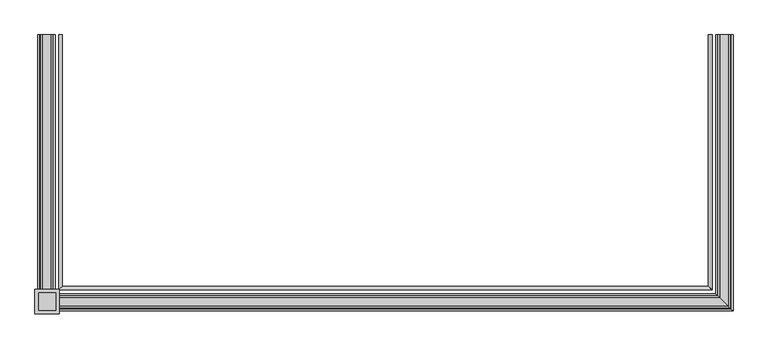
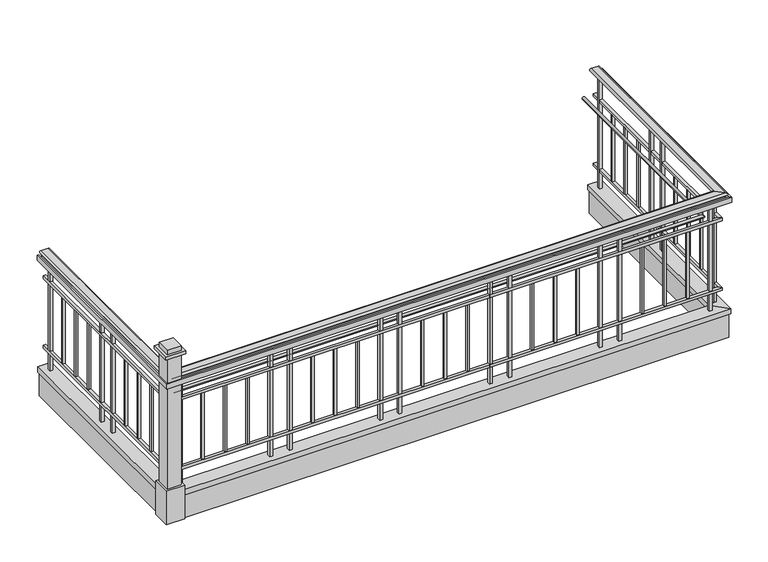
"""IFC4 building model written with IfcOpenShell, lengths in millimetres: railing geometry, Deco Type."""

from ifc_helpers import new_model, si_unit, frame, origin, place, context, project, spatial, polyline, circle_curve, ellipse_curve, outline, extrude, faceted_brep, source, transform, mapped, element, save
from ifc_brep_helpers import plane_surface, cylinder_surface, advanced_brep


def railing_9861355d(model_context):
    return source(origin(), model_context, "Body", "SolidModel", [
        advanced_brep(
        [(10061.4002076, -7864.1661799, 1098.55), (10124.7499602, -7864.1661799, 1098.55), (10124.7499602, -7864.1661799, 1076.261629), (10124.7499602, -7864.1661799, 1066.8), (10061.4002076, -7864.1661799, 1066.8), (10061.4002076, -7864.1661799, 1076.3248415), (10061.4002076, -9707.4039273, 1076.3248415), (10061.4002076, -9707.4039273, 1098.55), (10061.4002076, -9707.4039273, 1066.8), (10124.7499602, -9770.7536799, 1066.8), (10124.7499602, -9770.7536799, 1076.261629), (10124.7499602, -9770.7536799, 1098.55), (5376.3872128, -9707.4039273, 1076.3248415), (5376.3872128, -9707.4039273, 1098.55), (5376.3872128, -9707.4039273, 1066.8), (5313.0374602, -9770.7536799, 1066.8), (5313.0374602, -9770.7536799, 1076.261629), (5313.0374602, -9770.7536799, 1098.55), (5376.3872128, -7864.1661799, 1098.55), (5376.3872128, -7864.1661799, 1076.3248415), (5376.3872128, -7864.1661799, 1066.8), (5313.0374602, -7864.1661799, 1066.8), (5313.0374602, -7864.1661799, 1076.261629), (5313.0374602, -7864.1661799, 1098.55)],
        [
            (0, 1),
            (1, 2, circle_curve(frame((10124.7499602, -7864.1661799, 1087.4058145), z_axis=(0.0, 1.0, 0.0), x_axis=(1.0, 0.0, 0.0)), 11.1441855)),
            (2, 3),
            (3, 4),
            (4, 5),
            (5, 0, circle_curve(frame((10061.4002076, -7864.1661799, 1087.4374207), z_axis=(0.0, 1.0, 0.0), x_axis=(1.0, 0.0, 0.0)), 11.1125793)),
            (5, 6),
            (6, 7, ellipse_curve(frame((10061.4002076, -9707.4039273, 1087.4374207), z_axis=(0.7071067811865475, 0.7071067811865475, 0.0), x_axis=(-0.7071067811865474, 0.7071067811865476, 0.0)), 15.7155603, 11.1125793)),
            (7, 0),
            (4, 8),
            (8, 6),
            (3, 9),
            (9, 8),
            (2, 10),
            (10, 9),
            (1, 11),
            (11, 10, ellipse_curve(frame((10124.7499602, -9770.7536799, 1087.4058145), z_axis=(0.7071067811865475, 0.7071067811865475, 0.0), x_axis=(-0.7071067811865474, 0.7071067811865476, 0.0)), 15.7602583, 11.1441855)),
            (7, 11),
            (6, 12),
            (12, 13, ellipse_curve(frame((5376.3872128, -9707.4039273, 1087.4374207), z_axis=(0.7071067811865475, -0.7071067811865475, 0.0), x_axis=(0.7071067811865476, 0.7071067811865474, 0.0)), 15.7155603, 11.1125793)),
            (13, 7),
            (8, 14),
            (14, 12),
            (9, 15),
            (15, 14),
            (10, 16),
            (16, 15),
            (11, 17),
            (17, 16, ellipse_curve(frame((5313.0374602, -9770.7536799, 1087.4058145), z_axis=(0.7071067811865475, -0.7071067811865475, 0.0), x_axis=(0.7071067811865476, 0.7071067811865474, 0.0)), 15.7602583, 11.1441855)),
            (13, 17),
            (18, 19, circle_curve(frame((5376.3872128, -7864.1661799, 1087.4374207), z_axis=(0.0, 1.0, 0.0), x_axis=(-1.0, 0.0, 0.0)), 11.1125793)),
            (19, 20),
            (20, 21),
            (21, 22),
            (22, 23, circle_curve(frame((5313.0374602, -7864.1661799, 1087.4058145), z_axis=(0.0, 1.0, 0.0), x_axis=(-1.0, 0.0, 0.0)), 11.1441855)),
            (23, 18),
            (12, 19),
            (18, 13),
            (14, 20),
            (15, 21),
            (16, 22),
            (17, 23),
        ],
        [
            plane_surface(frame((10092.9999602, -7864.1661799, 1066.8), z_axis=(0.0, 1.0, 0.0), x_axis=(0.0, 0.0, -1.0))),
            cylinder_surface(frame((10061.4002076, -7864.1661799, 1087.4374207), z_axis=(0.0, 1.0, 0.0), x_axis=(1.0, 0.0, 0.0)), 11.1125793),
            plane_surface(frame((10061.4002076, -7864.1661799, 1066.8), z_axis=(-1.0, 0.0, 0.0), x_axis=(0.0, -1.0, 0.0))),
            plane_surface(frame((10124.7499602, -7864.1661799, 1066.8), z_axis=(0.0, 0.0, -1.0), x_axis=(0.0, -1.0, 0.0))),
            plane_surface(frame((10124.7499602, -7864.1661799, 1076.261629), z_axis=(1.0, 0.0, 0.0), x_axis=(0.0, -1.0, 0.0))),
            cylinder_surface(frame((10124.7499602, -7864.1661799, 1087.4058145), z_axis=(0.0, 1.0, 0.0), x_axis=(1.0, 0.0, 0.0)), 11.1441855),
            plane_surface(frame((10061.4002076, -7864.1661799, 1098.55), z_axis=(0.0, 0.0, 1.0), x_axis=(0.0, -1.0, 0.0))),
            cylinder_surface(frame((10092.9999602, -9707.4039273, 1087.4374207), z_axis=(1.0, 0.0, 0.0), x_axis=(0.0, -1.0, 0.0)), 11.1125793),
            plane_surface(frame((10061.4002076, -9707.4039273, 1066.8), z_axis=(0.0, 1.0, 0.0), x_axis=(-1.0, 0.0, 0.0))),
            plane_surface(frame((10124.7499602, -9770.7536799, 1066.8), z_axis=(0.0, 0.0, -1.0), x_axis=(-1.0, 0.0, 0.0))),
            plane_surface(frame((10124.7499602, -9770.7536799, 1076.261629), z_axis=(0.0, -1.0, 0.0), x_axis=(-1.0, 0.0, 0.0))),
            cylinder_surface(frame((10092.9999602, -9770.7536799, 1087.4058145), z_axis=(1.0, 0.0, 0.0), x_axis=(0.0, -1.0, 0.0)), 11.1441855),
            plane_surface(frame((10061.4002076, -9707.4039273, 1098.55), z_axis=(0.0, 0.0, 1.0), x_axis=(-1.0, 0.0, 0.0))),
            plane_surface(frame((5344.7874602, -7864.1661799, 1066.8), z_axis=(0.0, 1.0, 0.0), x_axis=(0.0, 0.0, 1.0))),
            cylinder_surface(frame((5376.3872128, -9739.0036799, 1087.4374207), z_axis=(0.0, -1.0, 0.0), x_axis=(-1.0, 0.0, 0.0)), 11.1125793),
            plane_surface(frame((5376.3872128, -9707.4039273, 1066.8), z_axis=(1.0, 0.0, 0.0), x_axis=(0.0, 1.0, 0.0))),
            plane_surface(frame((5313.0374602, -9770.7536799, 1066.8), z_axis=(0.0, 0.0, -1.0), x_axis=(0.0, 1.0, 0.0))),
            plane_surface(frame((5313.0374602, -9770.7536799, 1076.261629), z_axis=(-1.0, 0.0, 0.0), x_axis=(0.0, 1.0, 0.0))),
            cylinder_surface(frame((5313.0374602, -9739.0036799, 1087.4058145), z_axis=(0.0, -1.0, 0.0), x_axis=(-1.0, 0.0, 0.0)), 11.1441855),
            plane_surface(frame((5376.3872128, -9707.4039273, 1098.55), z_axis=(0.0, 0.0, 1.0), x_axis=(0.0, 1.0, 0.0))),
        ],
        [
            (0, [[1, 2, 3, 4, 5, 6]]),
            (1, [[-6, 7, 8, 9]]),
            (2, [[-5, 10, 11, -7]]),
            (3, [[-4, 12, 13, -10]]),
            (4, [[-3, 14, 15, -12]]),
            (5, [[-2, 16, 17, -14]]),
            (6, [[-1, -9, 18, -16]]),
            (7, [[-8, 19, 20, 21]]),
            (8, [[-11, 22, 23, -19]]),
            (9, [[-13, 24, 25, -22]]),
            (10, [[-15, 26, 27, -24]]),
            (11, [[-17, 28, 29, -26]]),
            (12, [[-18, -21, 30, -28]]),
            (13, [[31, 32, 33, 34, 35, 36]]),
            (14, [[-20, 37, -31, 38]]),
            (15, [[-23, 39, -32, -37]]),
            (16, [[-25, 40, -33, -39]]),
            (17, [[-27, 41, -34, -40]]),
            (18, [[-29, 42, -35, -41]]),
            (19, [[-30, -38, -36, -42]]),
        ],
    ),
        faceted_brep([(10118.4750839, -7864.1661799, 1066.8), (10118.4750839, -7864.1661799, 1022.35), (10105.7750839, -7864.1661799, 1022.35), (10105.7750839, -7864.1661799, 1066.8), (10105.7750839, -9751.7788036, 1066.8), (10118.4750839, -9764.4788036, 1066.8), (10105.7750839, -9751.7788036, 1022.35), (10118.4750839, -9764.4788036, 1022.35), (5332.0123365, -9751.7788036, 1066.8), (5319.3123365, -9764.4788036, 1066.8), (5332.0123365, -9751.7788036, 1022.35), (5319.3123365, -9764.4788036, 1022.35), (5319.3123365, -7864.1661799, 1066.8), (5332.0123365, -7864.1661799, 1066.8), (5332.0123365, -7864.1661799, 1022.35), (5319.3123365, -7864.1661799, 1022.35)], [[[0, 1, 2, 3]], [[0, 3, 4, 5]], [[3, 2, 6, 4]], [[2, 1, 7, 6]], [[1, 0, 5, 7]], [[5, 4, 8, 9]], [[4, 6, 10, 8]], [[6, 7, 11, 10]], [[7, 5, 9, 11]], [[12, 13, 14, 15]], [[9, 8, 13, 12]], [[8, 10, 14, 13]], [[10, 11, 15, 14]], [[11, 9, 12, 15]]]),
        faceted_brep([(10156.5750839, -7864.1661799, 1066.8), (10156.5750839, -7864.1661799, 1022.35), (10143.8750839, -7864.1661799, 1022.35), (10143.8750839, -7864.1661799, 1066.8), (10143.8750839, -9789.8788036, 1066.8), (10156.5750839, -9802.5788036, 1066.8), (10143.8750839, -9789.8788036, 1022.35), (10156.5750839, -9802.5788036, 1022.35), (5293.9123365, -9789.8788036, 1066.8), (5281.2123365, -9802.5788036, 1066.8), (5293.9123365, -9789.8788036, 1022.35), (5281.2123365, -9802.5788036, 1022.35), (5281.2123365, -7864.1661799, 1066.8), (5293.9123365, -7864.1661799, 1066.8), (5293.9123365, -7864.1661799, 1022.35), (5281.2123365, -7864.1661799, 1022.35)], [[[0, 1, 2, 3]], [[0, 3, 4, 5]], [[3, 2, 6, 4]], [[2, 1, 7, 6]], [[1, 0, 5, 7]], [[5, 4, 8, 9]], [[4, 6, 10, 8]], [[6, 7, 11, 10]], [[7, 5, 9, 11]], [[12, 13, 14, 15]], [[9, 8, 13, 12]], [[8, 10, 14, 13]], [[10, 11, 15, 14]], [[11, 9, 12, 15]]]),
        faceted_brep([(10105.6999602, -7864.1661799, 863.6), (10105.6999602, -7864.1661799, 838.2), (10080.2999602, -7864.1661799, 838.2), (10080.2999602, -7864.1661799, 863.6), (10080.2999602, -9726.3036799, 863.6), (10105.6999602, -9751.7036799, 863.6), (10080.2999602, -9726.3036799, 838.2), (10105.6999602, -9751.7036799, 838.2), (5357.4874602, -9726.3036799, 863.6), (5332.0874602, -9751.7036799, 863.6), (5357.4874602, -9726.3036799, 838.2), (5332.0874602, -9751.7036799, 838.2), (5332.0874602, -7864.1661799, 863.6), (5357.4874602, -7864.1661799, 863.6), (5357.4874602, -7864.1661799, 838.2), (5332.0874602, -7864.1661799, 838.2)], [[[0, 1, 2, 3]], [[0, 3, 4, 5]], [[3, 2, 6, 4]], [[2, 1, 7, 6]], [[1, 0, 5, 7]], [[5, 4, 8, 9]], [[4, 6, 10, 8]], [[6, 7, 11, 10]], [[7, 5, 9, 11]], [[12, 13, 14, 15]], [[9, 8, 13, 12]], [[8, 10, 14, 13]], [[10, 11, 15, 14]], [[11, 9, 12, 15]]]),
        advanced_brep(
        [(9983.4624602, -7864.1661799, 850.9), (10008.8624602, -7864.1661799, 850.9), (10008.8624602, -9654.8661799, 850.9), (9983.4624602, -9629.4661799, 850.9), (5428.9249602, -9654.8661799, 850.9), (5454.3249602, -9629.4661799, 850.9), (5454.3249602, -7864.1661799, 850.9), (5428.9249602, -7864.1661799, 850.9)],
        [
            (0, 1, circle_curve(frame((9996.1624602, -7864.1661799, 850.9), z_axis=(0.0, 1.0, 0.0), x_axis=(1.0, 0.0, 0.0)), 12.7)),
            (1, 0, circle_curve(frame((9996.1624602, -7864.1661799, 850.9), z_axis=(0.0, 1.0, 0.0), x_axis=(1.0, 0.0, 0.0)), 12.7)),
            (1, 2),
            (2, 3, ellipse_curve(frame((9996.1624602, -9642.1661799, 850.9), z_axis=(0.7071067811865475, 0.7071067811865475, 0.0), x_axis=(-0.7071067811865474, 0.7071067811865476, 0.0)), 17.9605122, 12.7)),
            (3, 0),
            (3, 2, ellipse_curve(frame((9996.1624602, -9642.1661799, 850.9), z_axis=(0.7071067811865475, 0.7071067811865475, 0.0), x_axis=(-0.7071067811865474, 0.7071067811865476, 0.0)), 17.9605122, 12.7)),
            (2, 4),
            (4, 5, ellipse_curve(frame((5441.6249602, -9642.1661799, 850.9), z_axis=(0.7071067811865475, -0.7071067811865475, 0.0), x_axis=(0.7071067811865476, 0.7071067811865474, 0.0)), 17.9605122, 12.7)),
            (5, 3),
            (5, 4, ellipse_curve(frame((5441.6249602, -9642.1661799, 850.9), z_axis=(0.7071067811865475, -0.7071067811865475, 0.0), x_axis=(0.7071067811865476, 0.7071067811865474, 0.0)), 17.9605122, 12.7)),
            (6, 7, circle_curve(frame((5441.6249602, -7864.1661799, 850.9), z_axis=(0.0, 1.0, 0.0), x_axis=(-1.0, 0.0, 0.0)), 12.7)),
            (7, 6, circle_curve(frame((5441.6249602, -7864.1661799, 850.9), z_axis=(0.0, 1.0, 0.0), x_axis=(-1.0, 0.0, 0.0)), 12.7)),
            (4, 7),
            (6, 5),
        ],
        [
            plane_surface(frame((9996.1624602, -7864.1661799, 850.9), z_axis=(0.0, 1.0, 0.0), x_axis=(0.0, 0.0, -1.0))),
            cylinder_surface(frame((9996.1624602, -7864.1661799, 850.9), z_axis=(0.0, 1.0, 0.0), x_axis=(1.0, 0.0, 0.0)), 12.7),
            cylinder_surface(frame((9996.1624602, -9642.1661799, 850.9), z_axis=(1.0, 0.0, 0.0), x_axis=(0.0, -1.0, 0.0)), 12.7),
            plane_surface(frame((5441.6249602, -7864.1661799, 850.9), z_axis=(0.0, 1.0, 0.0), x_axis=(0.0, 0.0, 1.0))),
            cylinder_surface(frame((5441.6249602, -9642.1661799, 850.9), z_axis=(0.0, -1.0, 0.0), x_axis=(-1.0, 0.0, 0.0)), 12.7),
        ],
        [
            (0, [[1, 2]]),
            (1, [[-2, 3, 4, 5]]),
            (1, [[-1, -5, 6, -3]]),
            (2, [[-4, 7, 8, 9]]),
            (2, [[-6, -9, 10, -7]]),
            (3, [[11, 12]]),
            (4, [[-8, 13, -11, 14]]),
            (4, [[-10, -14, -12, -13]]),
        ],
    ),
        faceted_brep([(10105.6999602, -7864.1661799, 228.6), (10105.6999602, -7864.1661799, 203.2), (10080.2999602, -7864.1661799, 203.2), (10080.2999602, -7864.1661799, 228.6), (10080.2999602, -9726.3036799, 228.6), (10105.6999602, -9751.7036799, 228.6), (10080.2999602, -9726.3036799, 203.2), (10105.6999602, -9751.7036799, 203.2), (5357.4874602, -9726.3036799, 228.6), (5332.0874602, -9751.7036799, 228.6), (5357.4874602, -9726.3036799, 203.2), (5332.0874602, -9751.7036799, 203.2), (5332.0874602, -7864.1661799, 228.6), (5357.4874602, -7864.1661799, 228.6), (5357.4874602, -7864.1661799, 203.2), (5332.0874602, -7864.1661799, 203.2)], [[[0, 1, 2, 3]], [[0, 3, 4, 5]], [[3, 2, 6, 4]], [[2, 1, 7, 6]], [[1, 0, 5, 7]], [[5, 4, 8, 9]], [[4, 6, 10, 8]], [[6, 7, 11, 10]], [[7, 5, 9, 11]], [[12, 13, 14, 15]], [[9, 8, 13, 12]], [[8, 10, 14, 13]], [[10, 11, 15, 14]], [[11, 9, 12, 15]]]),
        faceted_brep([(10034.3375839, -7864.1661799, 49.0362864), (10151.8125839, -7864.1661799, 49.0362864), (10151.8125839, -7864.1661799, 0.0), (10139.1125839, -7864.1661799, 0.0), (10139.1125839, -7864.1661799, 36.3362864), (10047.0375839, -7864.1661799, 36.3362864), (10047.0375839, -7864.1661799, 0.0), (10034.3375839, -7864.1661799, 0.0), (10034.3375839, -9680.3413036, 0.0), (10034.3375839, -9680.3413036, 49.0362864), (10047.0375839, -9693.0413036, 0.0), (10047.0375839, -9693.0413036, 36.3362864), (10139.1125839, -9785.1163036, 36.3362864), (10139.1125839, -9785.1163036, 0.0), (10151.8125839, -9797.8163036, 0.0), (10151.8125839, -9797.8163036, 49.0362864), (5403.4498365, -9680.3413036, 0.0), (5403.4498365, -9680.3413036, 49.0362864), (5390.7498365, -9693.0413036, 0.0), (5390.7498365, -9693.0413036, 36.3362864), (5298.6748365, -9785.1163036, 36.3362864), (5298.6748365, -9785.1163036, 0.0), (5285.9748365, -9797.8163036, 0.0), (5285.9748365, -9797.8163036, 49.0362864), (5403.4498365, -7864.1661799, 49.0362864), (5403.4498365, -7864.1661799, 0.0), (5390.7498365, -7864.1661799, 0.0), (5390.7498365, -7864.1661799, 36.3362864), (5298.6748365, -7864.1661799, 36.3362864), (5298.6748365, -7864.1661799, 0.0), (5285.9748365, -7864.1661799, 0.0), (5285.9748365, -7864.1661799, 49.0362864)], [[[0, 1, 2, 3, 4, 5, 6, 7]], [[0, 7, 8, 9]], [[7, 6, 10, 8]], [[6, 5, 11, 10]], [[5, 4, 12, 11]], [[4, 3, 13, 12]], [[3, 2, 14, 13]], [[2, 1, 15, 14]], [[1, 0, 9, 15]], [[9, 8, 16, 17]], [[8, 10, 18, 16]], [[10, 11, 19, 18]], [[11, 12, 20, 19]], [[12, 13, 21, 20]], [[13, 14, 22, 21]], [[14, 15, 23, 22]], [[15, 9, 17, 23]], [[24, 25, 26, 27, 28, 29, 30, 31]], [[17, 16, 25, 24]], [[16, 18, 26, 25]], [[18, 19, 27, 26]], [[19, 20, 28, 27]], [[20, 21, 29, 28]], [[21, 22, 30, 29]], [[22, 23, 31, 30]], [[23, 17, 24, 31]]]),
        faceted_brep([(10047.0375839, -7864.1661799, 36.3362864), (10139.1125839, -7864.1661799, 36.3362864), (10139.1125839, -7864.1661799, -217.6637136), (10047.0375839, -7864.1661799, -217.6637136), (10047.0375839, -9693.0413036, -217.6637136), (10047.0375839, -9693.0413036, 36.3362864), (10139.1125839, -9785.1163036, -217.6637136), (10139.1125839, -9785.1163036, 36.3362864), (5390.7498365, -9693.0413036, -217.6637136), (5390.7498365, -9693.0413036, 36.3362864), (5298.6748365, -9785.1163036, -217.6637136), (5298.6748365, -9785.1163036, 36.3362864), (5390.7498365, -7864.1661799, 36.3362864), (5390.7498365, -7864.1661799, -217.6637136), (5298.6748365, -7864.1661799, -217.6637136), (5298.6748365, -7864.1661799, 36.3362864)], [[[0, 1, 2, 3]], [[0, 3, 4, 5]], [[3, 2, 6, 4]], [[2, 1, 7, 6]], [[1, 0, 5, 7]], [[5, 4, 8, 9]], [[4, 6, 10, 8]], [[6, 7, 11, 10]], [[7, 5, 9, 11]], [[12, 13, 14, 15]], [[9, 8, 13, 12]], [[8, 10, 14, 13]], [[10, 11, 15, 14]], [[11, 9, 12, 15]]]),
        extrude(outline(polyline([(5334.8655852, -7959.4570347), (5334.8655852, -7934.0570347), (5360.2655852, -7934.0570347), (5360.2655852, -7959.4570347), (5334.8655852, -7959.4570347)])), frame((0.0, 0.0, 49.0362864), z_axis=(0.0, 0.0, 1.0), x_axis=(1.0, 0.0, 0.0)), (0.0, 0.0, 1.0), 1017.7637136),
        extrude(outline(polyline([(5338.0405852, -8148.9940292), (5338.0405852, -8129.9440292), (5357.0905852, -8129.9440292), (5357.0905852, -8148.9940292), (5338.0405852, -8148.9940292)])), frame((0.0, 0.0, 228.6), z_axis=(0.0, 0.0, 1.0), x_axis=(1.0, 0.0, 0.0)), (0.0, 0.0, 1.0), 609.6),
        extrude(outline(polyline([(5338.0405852, -8341.7060237), (5338.0405852, -8322.6560237), (5357.0905852, -8322.6560237), (5357.0905852, -8341.7060237), (5338.0405852, -8341.7060237)])), frame((0.0, 0.0, 228.6), z_axis=(0.0, 0.0, 1.0), x_axis=(1.0, 0.0, 0.0)), (0.0, 0.0, 1.0), 609.6),
        extrude(outline(polyline([(5338.0405852, -8534.4180182), (5338.0405852, -8515.3680182), (5357.0905852, -8515.3680182), (5357.0905852, -8534.4180182), (5338.0405852, -8534.4180182)])), frame((0.0, 0.0, 228.6), z_axis=(0.0, 0.0, 1.0), x_axis=(1.0, 0.0, 0.0)), (0.0, 0.0, 1.0), 609.6),
        extrude(outline(polyline([(5334.8655852, -8730.3050126), (5334.8655852, -8704.9050126), (5360.2655852, -8704.9050126), (5360.2655852, -8730.3050126), (5334.8655852, -8730.3050126)])), frame((0.0, 0.0, 49.0362864), z_axis=(0.0, 0.0, 1.0), x_axis=(1.0, 0.0, 0.0)), (0.0, 0.0, 1.0), 1017.7637136),
        extrude(outline(polyline([(5334.8655852, -8895.4867222), (5334.8655852, -8870.0867222), (5360.2655852, -8870.0867222), (5360.2655852, -8895.4867222), (5334.8655852, -8895.4867222)])), frame((0.0, 0.0, 49.0362864), z_axis=(0.0, 0.0, 1.0), x_axis=(1.0, 0.0, 0.0)), (0.0, 0.0, 1.0), 1017.7637136),
        extrude(outline(polyline([(5338.0405852, -9085.0237167), (5338.0405852, -9065.9737167), (5357.0905852, -9065.9737167), (5357.0905852, -9085.0237167), (5338.0405852, -9085.0237167)])), frame((0.0, 0.0, 228.6), z_axis=(0.0, 0.0, 1.0), x_axis=(1.0, 0.0, 0.0)), (0.0, 0.0, 1.0), 609.6),
        extrude(outline(polyline([(5338.0405852, -9277.7357112), (5338.0405852, -9258.6857112), (5357.0905852, -9258.6857112), (5357.0905852, -9277.7357112), (5338.0405852, -9277.7357112)])), frame((0.0, 0.0, 228.6), z_axis=(0.0, 0.0, 1.0), x_axis=(1.0, 0.0, 0.0)), (0.0, 0.0, 1.0), 609.6),
        extrude(outline(polyline([(5338.0405852, -9470.4477057), (5338.0405852, -9451.3977057), (5357.0905852, -9451.3977057), (5357.0905852, -9470.4477057), (5338.0405852, -9470.4477057)])), frame((0.0, 0.0, 228.6), z_axis=(0.0, 0.0, 1.0), x_axis=(1.0, 0.0, 0.0)), (0.0, 0.0, 1.0), 609.6),
        extrude(outline(polyline([(5334.8655852, -9666.3347001), (5334.8655852, -9640.9347001), (5360.2655852, -9640.9347001), (5360.2655852, -9666.3347001), (5334.8655852, -9666.3347001)])), frame((0.0, 0.0, 49.0362864), z_axis=(0.0, 0.0, 1.0), x_axis=(1.0, 0.0, 0.0)), (0.0, 0.0, 1.0), 1017.7637136),
        extrude(outline(polyline([(5443.959519, -9748.9255549), (5418.559519, -9748.9255549), (5418.559519, -9723.5255549), (5443.959519, -9723.5255549), (5443.959519, -9748.9255549)])), frame((0.0, 0.0, 49.0362864), z_axis=(0.0, 0.0, 1.0), x_axis=(1.0, 0.0, 0.0)), (0.0, 0.0, 1.0), 1017.7637136),
        extrude(outline(polyline([(5636.0703646, -9745.7505549), (5617.0203646, -9745.7505549), (5617.0203646, -9726.7005549), (5636.0703646, -9726.7005549), (5636.0703646, -9745.7505549)])), frame((0.0, 0.0, 228.6), z_axis=(0.0, 0.0, 1.0), x_axis=(1.0, 0.0, 0.0)), (0.0, 0.0, 1.0), 609.6),
        extrude(outline(polyline([(5831.3562102, -9745.7505549), (5812.3062102, -9745.7505549), (5812.3062102, -9726.7005549), (5831.3562102, -9726.7005549), (5831.3562102, -9745.7505549)])), frame((0.0, 0.0, 228.6), z_axis=(0.0, 0.0, 1.0), x_axis=(1.0, 0.0, 0.0)), (0.0, 0.0, 1.0), 609.6),
        extrude(outline(polyline([(6026.6420558, -9745.7505549), (6007.5920558, -9745.7505549), (6007.5920558, -9726.7005549), (6026.6420558, -9726.7005549), (6026.6420558, -9745.7505549)])), frame((0.0, 0.0, 228.6), z_axis=(0.0, 0.0, 1.0), x_axis=(1.0, 0.0, 0.0)), (0.0, 0.0, 1.0), 609.6),
        extrude(outline(polyline([(6225.1029014, -9748.9255549), (6199.7029014, -9748.9255549), (6199.7029014, -9723.5255549), (6225.1029014, -9723.5255549), (6225.1029014, -9748.9255549)])), frame((0.0, 0.0, 49.0362864), z_axis=(0.0, 0.0, 1.0), x_axis=(1.0, 0.0, 0.0)), (0.0, 0.0, 1.0), 1017.7637136),
        extrude(outline(polyline([(6392.490769, -9748.9255549), (6367.090769, -9748.9255549), (6367.090769, -9723.5255549), (6392.490769, -9723.5255549), (6392.490769, -9748.9255549)])), frame((0.0, 0.0, 49.0362864), z_axis=(0.0, 0.0, 1.0), x_axis=(1.0, 0.0, 0.0)), (0.0, 0.0, 1.0), 1017.7637136),
        extrude(outline(polyline([(6584.6016146, -9745.7505549), (6565.5516146, -9745.7505549), (6565.5516146, -9726.7005549), (6584.6016146, -9726.7005549), (6584.6016146, -9745.7505549)])), frame((0.0, 0.0, 228.6), z_axis=(0.0, 0.0, 1.0), x_axis=(1.0, 0.0, 0.0)), (0.0, 0.0, 1.0), 609.6),
        extrude(outline(polyline([(6779.8874602, -9745.7505549), (6760.8374602, -9745.7505549), (6760.8374602, -9726.7005549), (6779.8874602, -9726.7005549), (6779.8874602, -9745.7505549)])), frame((0.0, 0.0, 228.6), z_axis=(0.0, 0.0, 1.0), x_axis=(1.0, 0.0, 0.0)), (0.0, 0.0, 1.0), 609.6),
        extrude(outline(polyline([(6975.1733058, -9745.7505549), (6956.1233058, -9745.7505549), (6956.1233058, -9726.7005549), (6975.1733058, -9726.7005549), (6975.1733058, -9745.7505549)])), frame((0.0, 0.0, 228.6), z_axis=(0.0, 0.0, 1.0), x_axis=(1.0, 0.0, 0.0)), (0.0, 0.0, 1.0), 609.6),
        extrude(outline(polyline([(7173.6341514, -9748.9255549), (7148.2341514, -9748.9255549), (7148.2341514, -9723.5255549), (7173.6341514, -9723.5255549), (7173.6341514, -9748.9255549)])), frame((0.0, 0.0, 49.0362864), z_axis=(0.0, 0.0, 1.0), x_axis=(1.0, 0.0, 0.0)), (0.0, 0.0, 1.0), 1017.7637136),
        extrude(outline(polyline([(7341.022019, -9748.9255549), (7315.622019, -9748.9255549), (7315.622019, -9723.5255549), (7341.022019, -9723.5255549), (7341.022019, -9748.9255549)])), frame((0.0, 0.0, 49.0362864), z_axis=(0.0, 0.0, 1.0), x_axis=(1.0, 0.0, 0.0)), (0.0, 0.0, 1.0), 1017.7637136),
        extrude(outline(polyline([(7533.1328646, -9745.7505549), (7514.0828646, -9745.7505549), (7514.0828646, -9726.7005549), (7533.1328646, -9726.7005549), (7533.1328646, -9745.7505549)])), frame((0.0, 0.0, 228.6), z_axis=(0.0, 0.0, 1.0), x_axis=(1.0, 0.0, 0.0)), (0.0, 0.0, 1.0), 609.6),
        extrude(outline(polyline([(7728.4187102, -9745.7505549), (7709.3687102, -9745.7505549), (7709.3687102, -9726.7005549), (7728.4187102, -9726.7005549), (7728.4187102, -9745.7505549)])), frame((0.0, 0.0, 228.6), z_axis=(0.0, 0.0, 1.0), x_axis=(1.0, 0.0, 0.0)), (0.0, 0.0, 1.0), 609.6),
        extrude(outline(polyline([(7923.7045558, -9745.7505549), (7904.6545558, -9745.7505549), (7904.6545558, -9726.7005549), (7923.7045558, -9726.7005549), (7923.7045558, -9745.7505549)])), frame((0.0, 0.0, 228.6), z_axis=(0.0, 0.0, 1.0), x_axis=(1.0, 0.0, 0.0)), (0.0, 0.0, 1.0), 609.6),
        extrude(outline(polyline([(8122.1654014, -9748.9255549), (8096.7654014, -9748.9255549), (8096.7654014, -9723.5255549), (8122.1654014, -9723.5255549), (8122.1654014, -9748.9255549)])), frame((0.0, 0.0, 49.0362864), z_axis=(0.0, 0.0, 1.0), x_axis=(1.0, 0.0, 0.0)), (0.0, 0.0, 1.0), 1017.7637136),
        extrude(outline(polyline([(8289.553269, -9748.9255549), (8264.153269, -9748.9255549), (8264.153269, -9723.5255549), (8289.553269, -9723.5255549), (8289.553269, -9748.9255549)])), frame((0.0, 0.0, 49.0362864), z_axis=(0.0, 0.0, 1.0), x_axis=(1.0, 0.0, 0.0)), (0.0, 0.0, 1.0), 1017.7637136),
        extrude(outline(polyline([(8481.6641146, -9745.7505549), (8462.6141146, -9745.7505549), (8462.6141146, -9726.7005549), (8481.6641146, -9726.7005549), (8481.6641146, -9745.7505549)])), frame((0.0, 0.0, 228.6), z_axis=(0.0, 0.0, 1.0), x_axis=(1.0, 0.0, 0.0)), (0.0, 0.0, 1.0), 609.6),
        extrude(outline(polyline([(8676.9499602, -9745.7505549), (8657.8999602, -9745.7505549), (8657.8999602, -9726.7005549), (8676.9499602, -9726.7005549), (8676.9499602, -9745.7505549)])), frame((0.0, 0.0, 228.6), z_axis=(0.0, 0.0, 1.0), x_axis=(1.0, 0.0, 0.0)), (0.0, 0.0, 1.0), 609.6),
        extrude(outline(polyline([(8872.2358058, -9745.7505549), (8853.1858058, -9745.7505549), (8853.1858058, -9726.7005549), (8872.2358058, -9726.7005549), (8872.2358058, -9745.7505549)])), frame((0.0, 0.0, 228.6), z_axis=(0.0, 0.0, 1.0), x_axis=(1.0, 0.0, 0.0)), (0.0, 0.0, 1.0), 609.6),
        extrude(outline(polyline([(9070.6966514, -9748.9255549), (9045.2966514, -9748.9255549), (9045.2966514, -9723.5255549), (9070.6966514, -9723.5255549), (9070.6966514, -9748.9255549)])), frame((0.0, 0.0, 49.0362864), z_axis=(0.0, 0.0, 1.0), x_axis=(1.0, 0.0, 0.0)), (0.0, 0.0, 1.0), 1017.7637136),
        extrude(outline(polyline([(9238.084519, -9748.9255549), (9212.684519, -9748.9255549), (9212.684519, -9723.5255549), (9238.084519, -9723.5255549), (9238.084519, -9748.9255549)])), frame((0.0, 0.0, 49.0362864), z_axis=(0.0, 0.0, 1.0), x_axis=(1.0, 0.0, 0.0)), (0.0, 0.0, 1.0), 1017.7637136),
        extrude(outline(polyline([(9430.1953646, -9745.7505549), (9411.1453646, -9745.7505549), (9411.1453646, -9726.7005549), (9430.1953646, -9726.7005549), (9430.1953646, -9745.7505549)])), frame((0.0, 0.0, 228.6), z_axis=(0.0, 0.0, 1.0), x_axis=(1.0, 0.0, 0.0)), (0.0, 0.0, 1.0), 609.6),
        extrude(outline(polyline([(9625.4812102, -9745.7505549), (9606.4312102, -9745.7505549), (9606.4312102, -9726.7005549), (9625.4812102, -9726.7005549), (9625.4812102, -9745.7505549)])), frame((0.0, 0.0, 228.6), z_axis=(0.0, 0.0, 1.0), x_axis=(1.0, 0.0, 0.0)), (0.0, 0.0, 1.0), 609.6),
        extrude(outline(polyline([(9820.7670558, -9745.7505549), (9801.7170558, -9745.7505549), (9801.7170558, -9726.7005549), (9820.7670558, -9726.7005549), (9820.7670558, -9745.7505549)])), frame((0.0, 0.0, 228.6), z_axis=(0.0, 0.0, 1.0), x_axis=(1.0, 0.0, 0.0)), (0.0, 0.0, 1.0), 609.6),
        extrude(outline(polyline([(10019.2279014, -9748.9255549), (9993.8279014, -9748.9255549), (9993.8279014, -9723.5255549), (10019.2279014, -9723.5255549), (10019.2279014, -9748.9255549)])), frame((0.0, 0.0, 49.0362864), z_axis=(0.0, 0.0, 1.0), x_axis=(1.0, 0.0, 0.0)), (0.0, 0.0, 1.0), 1017.7637136),
        extrude(outline(polyline([(10102.9218352, -9640.9347001), (10102.9218352, -9666.3347001), (10077.5218352, -9666.3347001), (10077.5218352, -9640.9347001), (10102.9218352, -9640.9347001)])), frame((0.0, 0.0, 49.0362864), z_axis=(0.0, 0.0, 1.0), x_axis=(1.0, 0.0, 0.0)), (0.0, 0.0, 1.0), 1017.7637136),
        extrude(outline(polyline([(10099.7468352, -9451.3977057), (10099.7468352, -9470.4477057), (10080.6968352, -9470.4477057), (10080.6968352, -9451.3977057), (10099.7468352, -9451.3977057)])), frame((0.0, 0.0, 228.6), z_axis=(0.0, 0.0, 1.0), x_axis=(1.0, 0.0, 0.0)), (0.0, 0.0, 1.0), 609.6),
        extrude(outline(polyline([(10099.7468352, -9258.6857112), (10099.7468352, -9277.7357112), (10080.6968352, -9277.7357112), (10080.6968352, -9258.6857112), (10099.7468352, -9258.6857112)])), frame((0.0, 0.0, 228.6), z_axis=(0.0, 0.0, 1.0), x_axis=(1.0, 0.0, 0.0)), (0.0, 0.0, 1.0), 609.6),
        extrude(outline(polyline([(10099.7468352, -9065.9737167), (10099.7468352, -9085.0237167), (10080.6968352, -9085.0237167), (10080.6968352, -9065.9737167), (10099.7468352, -9065.9737167)])), frame((0.0, 0.0, 228.6), z_axis=(0.0, 0.0, 1.0), x_axis=(1.0, 0.0, 0.0)), (0.0, 0.0, 1.0), 609.6),
        extrude(outline(polyline([(10102.9218352, -8870.0867222), (10102.9218352, -8895.4867222), (10077.5218352, -8895.4867222), (10077.5218352, -8870.0867222), (10102.9218352, -8870.0867222)])), frame((0.0, 0.0, 49.0362864), z_axis=(0.0, 0.0, 1.0), x_axis=(1.0, 0.0, 0.0)), (0.0, 0.0, 1.0), 1017.7637136),
        extrude(outline(polyline([(10102.9218352, -8704.9050126), (10102.9218352, -8730.3050126), (10077.5218352, -8730.3050126), (10077.5218352, -8704.9050126), (10102.9218352, -8704.9050126)])), frame((0.0, 0.0, 49.0362864), z_axis=(0.0, 0.0, 1.0), x_axis=(1.0, 0.0, 0.0)), (0.0, 0.0, 1.0), 1017.7637136),
        extrude(outline(polyline([(10099.7468352, -8515.3680182), (10099.7468352, -8534.4180182), (10080.6968352, -8534.4180182), (10080.6968352, -8515.3680182), (10099.7468352, -8515.3680182)])), frame((0.0, 0.0, 228.6), z_axis=(0.0, 0.0, 1.0), x_axis=(1.0, 0.0, 0.0)), (0.0, 0.0, 1.0), 609.6),
        extrude(outline(polyline([(10099.7468352, -8322.6560237), (10099.7468352, -8341.7060237), (10080.6968352, -8341.7060237), (10080.6968352, -8322.6560237), (10099.7468352, -8322.6560237)])), frame((0.0, 0.0, 228.6), z_axis=(0.0, 0.0, 1.0), x_axis=(1.0, 0.0, 0.0)), (0.0, 0.0, 1.0), 609.6),
        extrude(outline(polyline([(10099.7468352, -8129.9440292), (10099.7468352, -8148.9940292), (10080.6968352, -8148.9940292), (10080.6968352, -8129.9440292), (10099.7468352, -8129.9440292)])), frame((0.0, 0.0, 228.6), z_axis=(0.0, 0.0, 1.0), x_axis=(1.0, 0.0, 0.0)), (0.0, 0.0, 1.0), 609.6),
        extrude(outline(polyline([(10102.9218352, -7934.0570347), (10102.9218352, -7959.4570347), (10077.5218352, -7959.4570347), (10077.5218352, -7934.0570347), (10102.9218352, -7934.0570347)])), frame((0.0, 0.0, 49.0362864), z_axis=(0.0, 0.0, 1.0), x_axis=(1.0, 0.0, 0.0)), (0.0, 0.0, 1.0), 1017.7637136),
        extrude(outline(polyline([(5426.9405852, -9656.8505549), (5426.9405852, -9815.6005549), (5268.1905852, -9815.6005549), (5268.1905852, -9656.8505549), (5426.9405852, -9656.8505549)])), frame((0.0, 0.0, -203.2), z_axis=(0.0, 0.0, 1.0), x_axis=(1.0, 0.0, 0.0)), (0.0, 0.0, 1.0), 304.8),
        extrude(outline(polyline([(5407.8905852, -9675.9005549), (5407.8905852, -9796.5505549), (5287.2405852, -9796.5505549), (5287.2405852, -9675.9005549), (5407.8905852, -9675.9005549)])), frame((0.0, 0.0, 101.6), z_axis=(0.0, 0.0, 1.0), x_axis=(1.0, 0.0, 0.0)), (0.0, 0.0, 1.0), 1270.0),
        extrude(outline(polyline([(5433.2905852, -9821.9505549), (5261.8405852, -9821.9505549), (5261.8405852, -9650.5005549), (5433.2905852, -9650.5005549), (5433.2905852, -9821.9505549)]), holes=[polyline([(5287.2405852, -9796.5505549), (5407.8905852, -9796.5505549), (5407.8905852, -9675.9005549), (5287.2405852, -9675.9005549), (5287.2405852, -9796.5505549)])]), frame((0.0, 0.0, 1304.925), z_axis=(0.0, 0.0, 1.0), x_axis=(1.0, 0.0, 0.0)), (0.0, 0.0, 1.0), 25.4),
    ])


if __name__ == "__main__":
    model = new_model("IFC4")
    model_context = context("Model", 3, world=origin())
    ifc_project = project(units=[si_unit("LENGTHUNIT", "METRE", prefix="MILLI")], contexts=[model_context])
    site = spatial("IfcSite", under=ifc_project)
    building = spatial("IfcBuilding", under=site)
    placement = place(None, origin())
    railing_shape = railing_9861355d(model_context)
    element("IfcRailing", 1, ObjectType="Deco Type", at=placement, inside=building, context=model_context, shape_type="MappedRepresentation", body=[
        mapped(railing_shape, transform((0.0, 0.0, 0.0), x_axis=(1.0, 0.0, 0.0), y_axis=(0.0, 1.0, 0.0), z_axis=(0.0, 0.0, 1.0))),
    ])
    save(model, "model.ifc")
